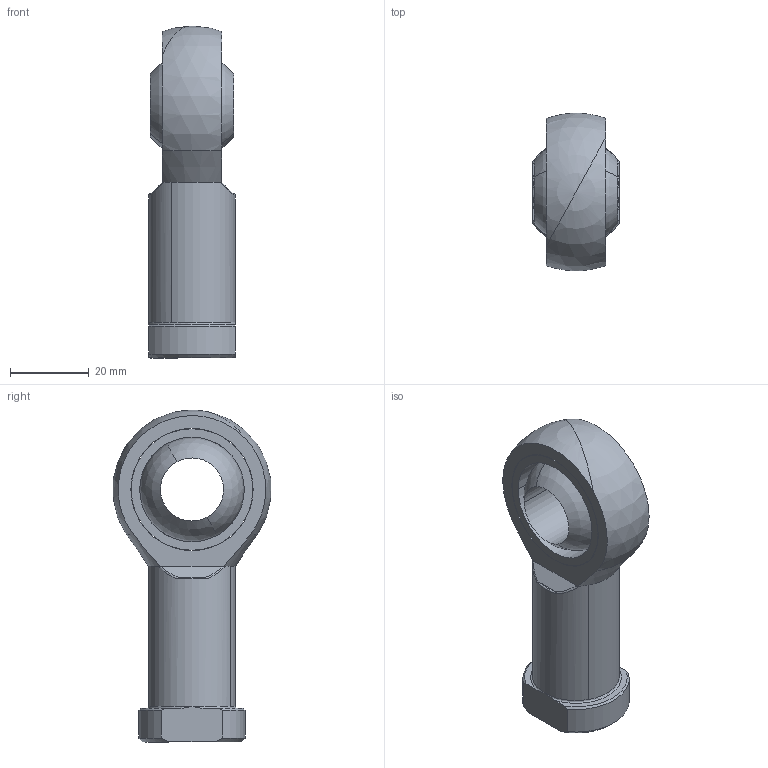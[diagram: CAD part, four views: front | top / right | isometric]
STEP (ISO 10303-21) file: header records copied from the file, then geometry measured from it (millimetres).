
FILE_DESCRIPTION(('CATIA V5 STEP Exchange'),'2;1');
FILE_NAME('D:\stp file for catalog\BAST-FI\FI 16.stp','2018-06-12T06:04:15+00:00',('none'),('none'),'CATIA Version 5-6 Release 2016','CATIA V5 STEP AP203','none');
FILE_SCHEMA(('CONFIG_CONTROL_DESIGN'));
Length unit declared in the file: millimetre
Products named in the file (1): FI 16
Bounding box: 22 x 40.01 x 84.15 mm (x, y, z)
Volume: 28017.4 mm3; surface area: 14960.8 mm2
Topology: 3 solids, 3 shells, 52 faces, 145 edges, 95 vertices
Faces by surface type: cylinder 16, plane 13, cone 9, sphere 6, torus 4, bspline 4
Entity records: 2005 total; most frequent: CARTESIAN_POINT 816, ORIENTED_EDGE 282, DIRECTION 153, EDGE_CURVE 141, AXIS2_PLACEMENT_3D 94, VERTEX_POINT 94, CIRCLE 64, EDGE_LOOP 57
